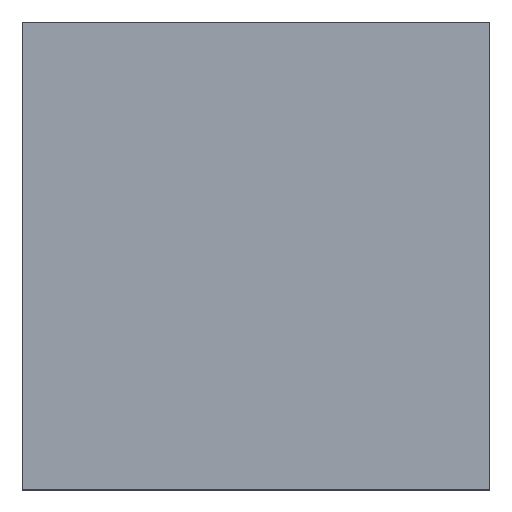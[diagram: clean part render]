
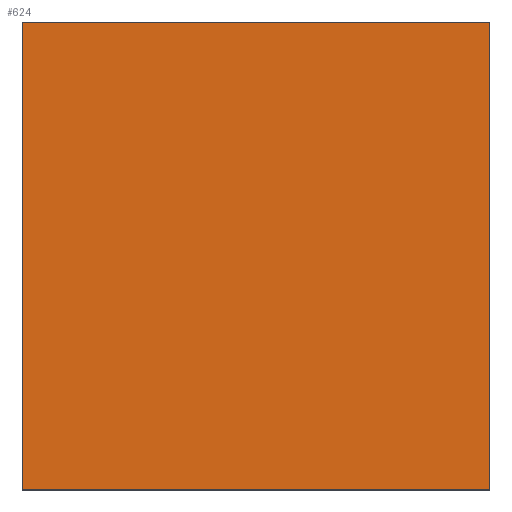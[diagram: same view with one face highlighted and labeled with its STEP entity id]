
A CAD part, top view. The second image highlights one B-rep face of the part: STEP entity #624.
In plain terms, the highlighted planar face has unit normal (0, 0, 1).
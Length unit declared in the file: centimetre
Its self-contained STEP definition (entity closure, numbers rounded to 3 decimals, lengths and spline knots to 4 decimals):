
#2 = VECTOR ( 'NONE', #597, 100. ) ;
#32 = VERTEX_POINT ( 'NONE', #493 ) ;
#36 = ORIENTED_EDGE ( 'NONE', *, *, #650, .T. ) ;
#50 = VERTEX_POINT ( 'NONE', #491 ) ;
#66 = CARTESIAN_POINT ( 'NONE',  ( 0., 0., 1000. ) ) ;
#78 = CARTESIAN_POINT ( 'NONE',  ( 0., 0., 1000. ) ) ;
#100 = DIRECTION ( 'NONE',  ( -1., 0., 0. ) ) ;
#175 = LINE ( 'NONE', #66, #399 ) ;
#290 = EDGE_CURVE ( 'NONE', #387, #32, #436, .T. ) ;
#291 = CARTESIAN_POINT ( 'NONE',  ( 1000., 0., 1000. ) ) ;
#298 = EDGE_CURVE ( 'NONE', #375, #387, #175, .T. ) ;
#305 = DIRECTION ( 'NONE',  ( 1., 0., 0. ) ) ;
#316 = PLANE ( 'NONE',  #660 ) ;
#319 = DIRECTION ( 'NONE',  ( 0., -1., 0. ) ) ;
#358 = CARTESIAN_POINT ( 'NONE',  ( 0., 1000., 1000. ) ) ;
#371 = LINE ( 'NONE', #358, #392 ) ;
#375 = VERTEX_POINT ( 'NONE', #78 ) ;
#384 = EDGE_LOOP ( 'NONE', ( #36, #576, #516, #390 ) ) ;
#387 = VERTEX_POINT ( 'NONE', #291 ) ;
#390 = ORIENTED_EDGE ( 'NONE', *, *, #606, .T. ) ;
#392 = VECTOR ( 'NONE', #100, 100. ) ;
#399 = VECTOR ( 'NONE', #545, 100. ) ;
#414 = CARTESIAN_POINT ( 'NONE',  ( 0., 1000., 1000. ) ) ;
#436 = LINE ( 'NONE', #658, #2 ) ;
#491 = CARTESIAN_POINT ( 'NONE',  ( 0., 1000., 1000. ) ) ;
#493 = CARTESIAN_POINT ( 'NONE',  ( 1000., 1000., 1000. ) ) ;
#512 = CARTESIAN_POINT ( 'NONE',  ( 0., 0., 1000. ) ) ;
#516 = ORIENTED_EDGE ( 'NONE', *, *, #290, .T. ) ;
#545 = DIRECTION ( 'NONE',  ( 1., 0., 0. ) ) ;
#556 = VECTOR ( 'NONE', #319, 100. ) ;
#572 = FACE_OUTER_BOUND ( 'NONE', #384, .T. ) ;
#576 = ORIENTED_EDGE ( 'NONE', *, *, #298, .T. ) ;
#597 = DIRECTION ( 'NONE',  ( 0., 1., 0. ) ) ;
#606 = EDGE_CURVE ( 'NONE', #32, #50, #371, .T. ) ;
#624 = ADVANCED_FACE ( 'NONE', ( #572 ), #316, .T. ) ;
#640 = DIRECTION ( 'NONE',  ( 0., 0., 1. ) ) ;
#650 = EDGE_CURVE ( 'NONE', #50, #375, #693, .T. ) ;
#658 = CARTESIAN_POINT ( 'NONE',  ( 1000., 1000., 1000. ) ) ;
#660 = AXIS2_PLACEMENT_3D ( 'NONE', #512, #640, #305 ) ;
#693 = LINE ( 'NONE', #414, #556 ) ;
